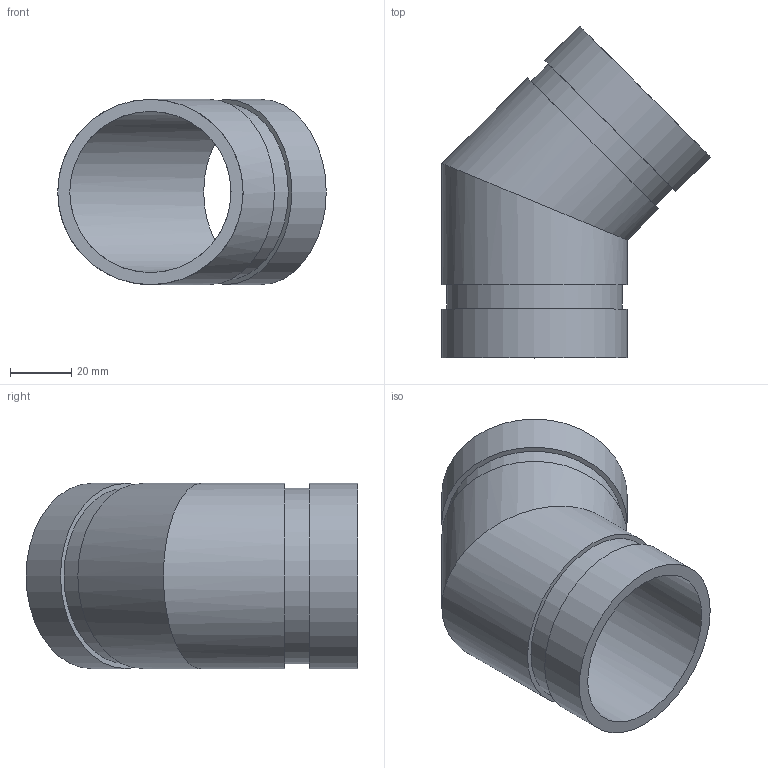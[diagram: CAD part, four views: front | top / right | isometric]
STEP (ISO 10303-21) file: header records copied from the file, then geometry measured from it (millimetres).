
FILE_DESCRIPTION(/* description */ ('VIC 45 DEG FABRICATED ELBOW No 11 SWS (OGS)','CAx-IF Rec.Pracs.---Representation and Presentation of Product Manufacturing Information (PMI)---4.0---2014-10-13'),/* implementation_level */ '2;1');
FILE_NAME(/* name */ 'C:\Users\kkamble\AppData\Roaming\Autodesk\ApplicationPlugins\Back Up\Victaulic_IPS_Elbow 45 Deg_No 11 SWS (OGS)\Victaulic_IPS_Elbow 45 Deg_No 11 SWS (OGS)_2 (50).stp',/* time_stamp */ '2020-09-16T22:14:21+06:00',/* author */ ('cgray'),/* organization */ ('Victaulic'),/* preprocessor_version */ 'ST-DEVELOPER v17.2',/* originating_system */ 'Autodesk Inventor 2019',/* authorisation */ '');
FILE_SCHEMA (('AP242_MANAGED_MODEL_BASED_3D_ENGINEERING_MIM_LF { 1 0 10303 442 1 1 4 }'));
Length unit declared in the file: inch
Products named in the file (1): 11 SWS-02.0
Bounding box: 87.41 x 108.05 x 60.33 mm (x, y, z)
Volume: 65775.8 mm3; surface area: 38412.4 mm2
Topology: 1 solids, 1 shells, 14 faces, 30 edges, 22 vertices
Faces by surface type: cylinder 8, plane 6
Full cylindrical faces by diameter (mm): 52.502 x2, 57.15 x2, 60.325 x4
Entity records: 554 total; most frequent: DIRECTION 108, CARTESIAN_POINT 84, ORIENTED_EDGE 60, AXIS2_PLACEMENT_3D 50, EDGE_CURVE 30, VERTEX_POINT 22, EDGE_LOOP 20, CIRCLE 16
